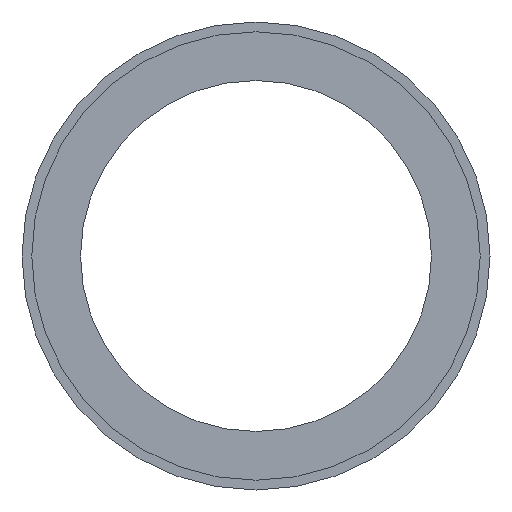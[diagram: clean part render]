
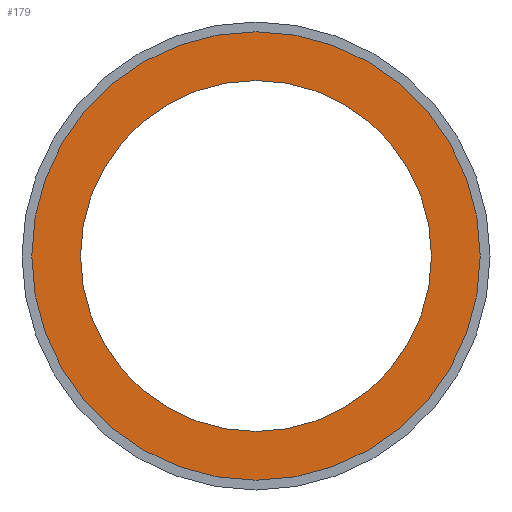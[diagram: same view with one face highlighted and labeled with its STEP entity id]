
A CAD part, front view. The second image highlights one B-rep face of the part: STEP entity #179.
In plain terms, the highlighted planar face has unit normal (0, -1, 0).
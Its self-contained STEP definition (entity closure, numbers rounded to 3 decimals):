
#6 = CARTESIAN_POINT ( 'NONE',  ( 0., 2.53, -23. ) ) ;
#26 = AXIS2_PLACEMENT_3D ( 'NONE', #192, #133, #244 ) ;
#38 = DIRECTION ( 'NONE',  ( 0., 0., -1. ) ) ;
#43 = AXIS2_PLACEMENT_3D ( 'NONE', #82, #87, #311 ) ;
#49 = DIRECTION ( 'NONE',  ( 0., -1., 0. ) ) ;
#67 = CARTESIAN_POINT ( 'NONE',  ( 0., 2.53, 23. ) ) ;
#71 = DIRECTION ( 'NONE',  ( 0., -1., 0. ) ) ;
#76 = EDGE_LOOP ( 'NONE', ( #322, #263 ) ) ;
#77 = EDGE_CURVE ( 'NONE', #96, #320, #258, .T. ) ;
#82 = CARTESIAN_POINT ( 'NONE',  ( 0., 2.53, 0. ) ) ;
#83 = EDGE_CURVE ( 'NONE', #320, #96, #364, .T. ) ;
#86 = AXIS2_PLACEMENT_3D ( 'NONE', #368, #49, #282 ) ;
#87 = DIRECTION ( 'NONE',  ( 0., -1., 0. ) ) ;
#96 = VERTEX_POINT ( 'NONE', #67 ) ;
#105 = CARTESIAN_POINT ( 'NONE',  ( 0., 2.53, 0. ) ) ;
#109 = EDGE_CURVE ( 'NONE', #181, #213, #118, .T. ) ;
#118 = CIRCLE ( 'NONE', #26, 18. ) ;
#133 = DIRECTION ( 'NONE',  ( 0., -1., 0. ) ) ;
#151 = ORIENTED_EDGE ( 'NONE', *, *, #269, .F. ) ;
#161 = DIRECTION ( 'NONE',  ( 0., -1., 0. ) ) ;
#169 = CIRCLE ( 'NONE', #43, 18. ) ;
#179 = ADVANCED_FACE ( 'NONE', ( #248, #280 ), #205, .T. ) ;
#181 = VERTEX_POINT ( 'NONE', #285 ) ;
#192 = CARTESIAN_POINT ( 'NONE',  ( 0., 2.53, 0. ) ) ;
#197 = AXIS2_PLACEMENT_3D ( 'NONE', #218, #161, #329 ) ;
#205 = PLANE ( 'NONE',  #86 ) ;
#213 = VERTEX_POINT ( 'NONE', #251 ) ;
#215 = AXIS2_PLACEMENT_3D ( 'NONE', #105, #71, #38 ) ;
#218 = CARTESIAN_POINT ( 'NONE',  ( 0., 2.53, 0. ) ) ;
#244 = DIRECTION ( 'NONE',  ( 0., 0., -1. ) ) ;
#248 = FACE_OUTER_BOUND ( 'NONE', #76, .T. ) ;
#251 = CARTESIAN_POINT ( 'NONE',  ( 0., 2.53, -18. ) ) ;
#258 = CIRCLE ( 'NONE', #197, 23. ) ;
#259 = EDGE_LOOP ( 'NONE', ( #151, #270 ) ) ;
#263 = ORIENTED_EDGE ( 'NONE', *, *, #77, .T. ) ;
#269 = EDGE_CURVE ( 'NONE', #213, #181, #169, .T. ) ;
#270 = ORIENTED_EDGE ( 'NONE', *, *, #109, .F. ) ;
#280 = FACE_BOUND ( 'NONE', #259, .T. ) ;
#282 = DIRECTION ( 'NONE',  ( 0., 0., -1. ) ) ;
#285 = CARTESIAN_POINT ( 'NONE',  ( 0., 2.53, 18. ) ) ;
#311 = DIRECTION ( 'NONE',  ( 0., 0., -1. ) ) ;
#320 = VERTEX_POINT ( 'NONE', #6 ) ;
#322 = ORIENTED_EDGE ( 'NONE', *, *, #83, .T. ) ;
#329 = DIRECTION ( 'NONE',  ( 0., 0., -1. ) ) ;
#364 = CIRCLE ( 'NONE', #215, 23. ) ;
#368 = CARTESIAN_POINT ( 'NONE',  ( 18., 2.53, 0. ) ) ;
